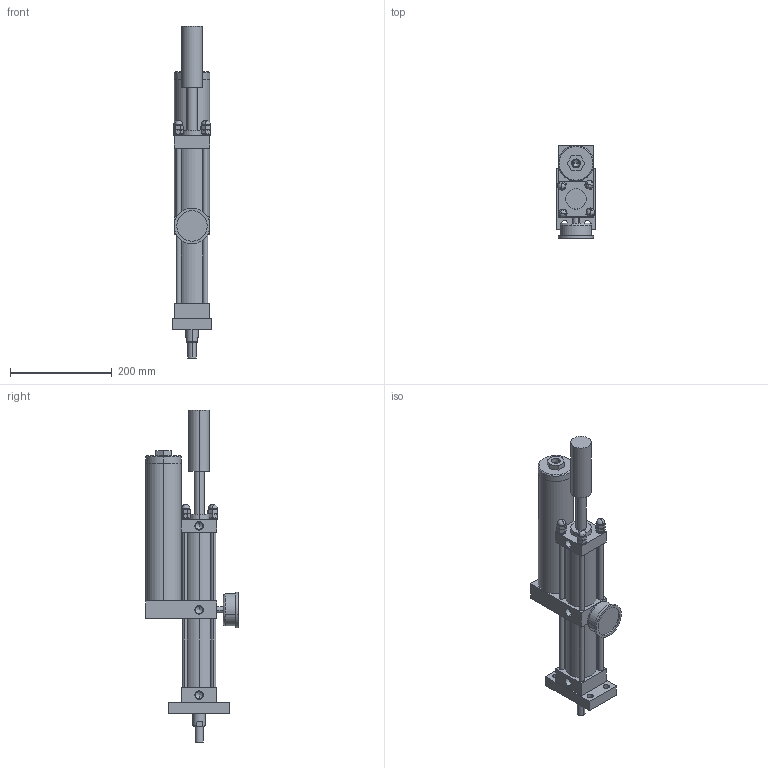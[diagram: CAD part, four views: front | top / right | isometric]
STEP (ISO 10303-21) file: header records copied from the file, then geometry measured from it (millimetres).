
FILE_DESCRIPTION (( 'STEP AP203' ), '1' );
FILE_NAME ('JRB-50-75-10L-0.5T-10B.STEP', '2023-11-10T08:09:40', ( 'China' ), ( 'Home' ), 'SwSTEP 2.0', 'SolidWorks 2020', '' );
FILE_SCHEMA (( 'CONFIG_CONTROL_DESIGN' ));
Length unit declared in the file: millimetre
Products named in the file (5): JRB-50-75-10L-0.5T-10B; yalibiao; JRB-50-75-10L-0.5T- 10B; M10
Assembly tree (7 placements, depth 2):
  JRB-50-75-10L-0.5T-10B
    JRB-50-75-10L-0.5T-10B
    JRB-50-75-10L-0.5T- 10B
    M10  x4
    yalibiao
Bounding box: 75 x 182 x 652 mm (x, y, z)
Volume: 2645780.9 mm3; surface area: 358226.7 mm2
Topology: 15 solids, 16 shells, 409 faces, 931 edges, 567 vertices
Faces by surface type: plane 140, cylinder 132, cone 127, sphere 8, bspline 2
Entity records: 7083 total; most frequent: CARTESIAN_POINT 1376, DIRECTION 1141, ORIENTED_EDGE 984, EDGE_CURVE 492, AXIS2_PLACEMENT_3D 465, VERTEX_POINT 316, EDGE_LOOP 282, CIRCLE 234
